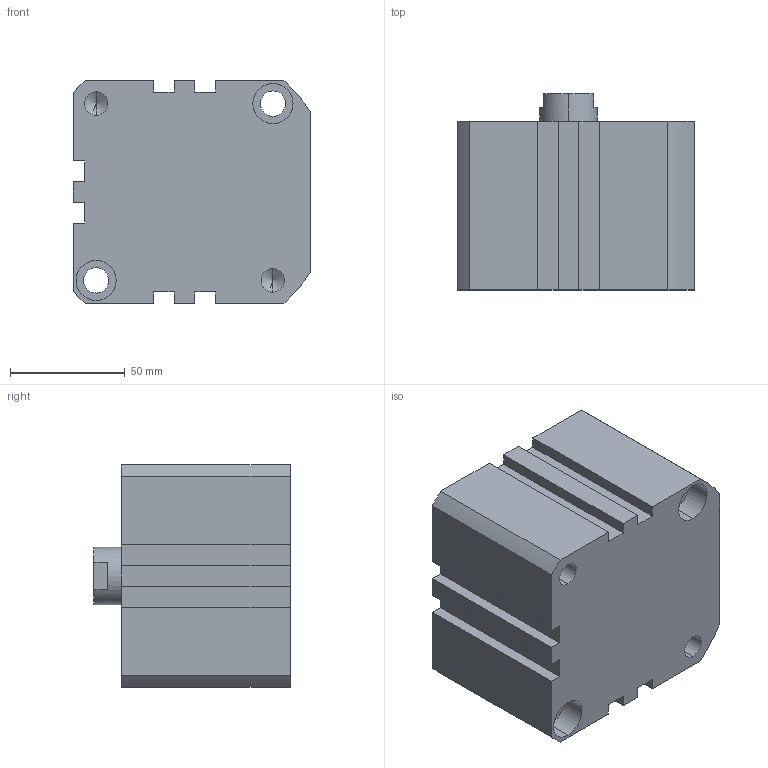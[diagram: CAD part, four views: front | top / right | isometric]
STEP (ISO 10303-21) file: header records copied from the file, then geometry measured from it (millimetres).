
FILE_DESCRIPTION (( 'STEP AP203' ), '1' );
FILE_NAME ('XG#2-80D-10.STEP', '2016-05-24T01:54:11', ( '' ), ( '' ), 'SwSTEP 2.0', 'SolidWorks 2014', '' );
FILE_SCHEMA (( 'CONFIG_CONTROL_DESIGN' ));
Length unit declared in the file: millimetre
Products named in the file (1): XG#2-80D-10
Bounding box: 103.5 x 85.5 x 97 mm (x, y, z)
Volume: 663929.3 mm3; surface area: 65468.3 mm2
Topology: 1 solids, 1 shells, 111 faces, 279 edges, 174 vertices
Faces by surface type: cylinder 47, plane 46, cone 18
Entity records: 3327 total; most frequent: DIRECTION 596, CARTESIAN_POINT 551, ORIENTED_EDGE 530, EDGE_CURVE 265, AXIS2_PLACEMENT_3D 219, VERTEX_POINT 174, VECTOR 158, LINE 158
